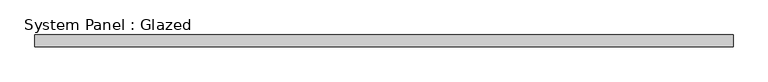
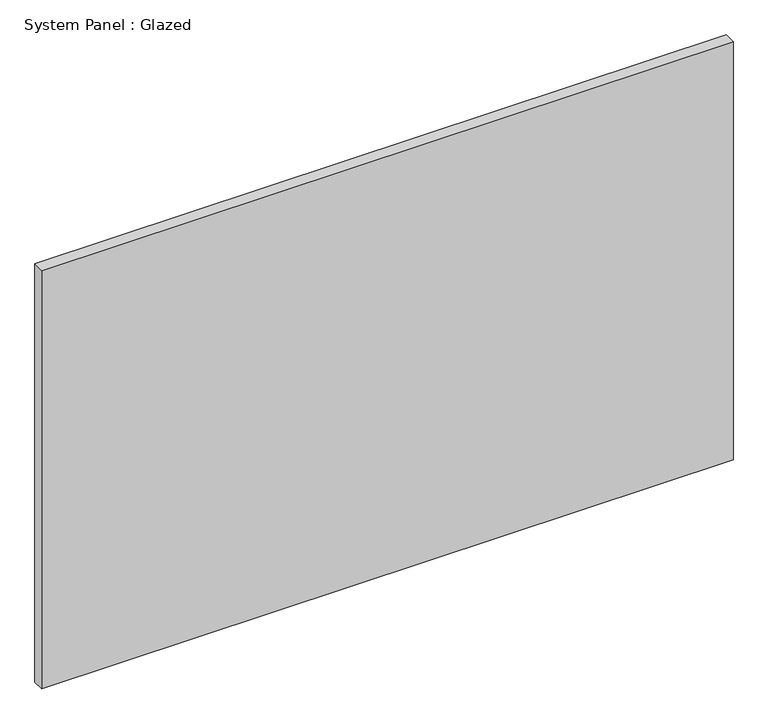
"""IFC4 building model written with IfcOpenShell, lengths in millimetres: plate geometry, System Panel : Glazed."""

from ifc_helpers import new_model, si_unit, origin, origin_with_axes, place, context, project, spatial, polyline, outline, extrude, source, transform, mapped, element, save


def system_panel_glazed_4e92a968(model_context):
    return source(origin(), model_context, "Body", "SweptSolid", [
        extrude(outline(polyline([(745.0, -12.5), (-745.0, -12.5), (-745.0, 12.5), (745.0, 12.5), (745.0, -12.5)])), origin_with_axes(), (0.0, 0.0, 1.0), 952.5),
    ])


if __name__ == "__main__":
    model = new_model("IFC4")
    model_context = context("Model", 3, world=origin())
    ifc_project = project(units=[si_unit("LENGTHUNIT", "METRE", prefix="MILLI")], contexts=[model_context])
    site = spatial("IfcSite", under=ifc_project)
    building = spatial("IfcBuilding", under=site)
    placement = place(None, origin())
    system_panel_glazed_shape = system_panel_glazed_4e92a968(model_context)
    element("IfcPlate", 1, ObjectType="System Panel : Glazed", at=placement, inside=building, context=model_context, shape_type="MappedRepresentation", body=[
        mapped(system_panel_glazed_shape, transform((0.0, 0.0, 0.0), x_axis=(1.0, 0.0, 0.0), y_axis=(0.0, 1.0, 0.0), z_axis=(0.0, 0.0, 1.0))),
    ])
    save(model, "model.ifc")
